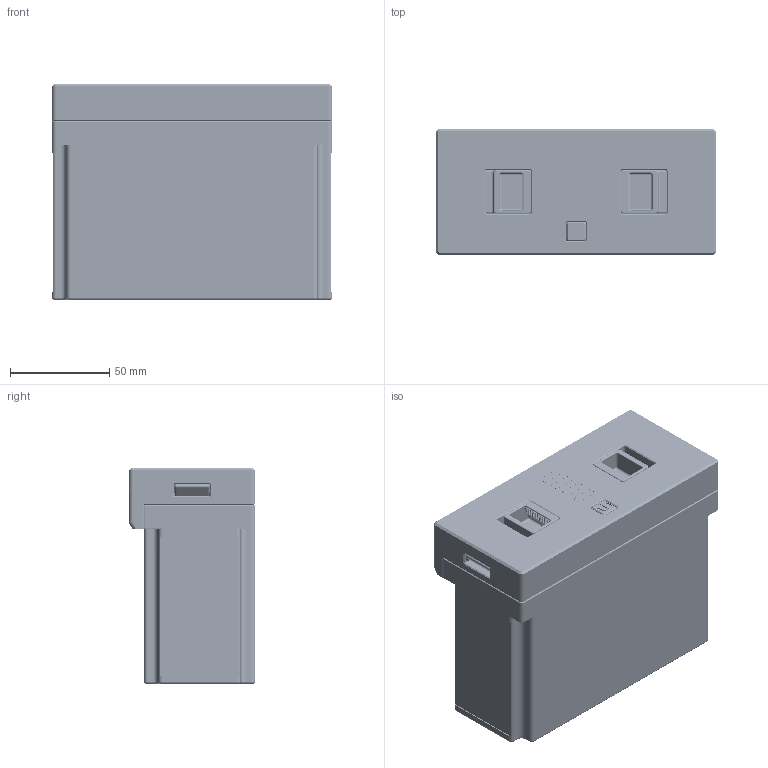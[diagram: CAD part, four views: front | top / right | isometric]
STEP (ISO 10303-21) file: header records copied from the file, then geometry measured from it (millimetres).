
FILE_DESCRIPTION (( 'STEP AP214' ), '1' );
FILE_NAME ('HTPW 02A-48vPower battery.STEP', '2026-04-10T10:41:55', ( 'China' ), ( 'Microsoft' ), 'SwSTEP 2.0', 'SolidWorks 2024', '' );
FILE_SCHEMA (( 'AUTOMOTIVE_DESIGN' ));
Length unit declared in the file: millimetre
Products named in the file (11): 3D_BMS-12S-灯板-V1.0.1_250709_2025-07-09; HT-PB-48PW-02.1A-电池按钮; 3D_BMS-12S-V1.3.0.250606_2025-06-09; 21700电芯包-2x6排列-16p; HT-PB-24PW-电池BMS散热片_37x25x3; HTPW 02A-48vPower battery; HTPW 48PW-02.1A-电池下壳; HTPW 48PW-02.1A-电池卡舌; LGF4118-L7.0雾白; HTPW 48PW-02.1A-电池上盖; HT-PB-48PW-02.1A-滑舌后盖
Assembly tree (15 placements, depth 2):
  HTPW 02A-48vPower battery
    21700电芯包-2x6排列-16p
    HTPW 48PW-02.1A-电池卡舌  x2
    HTPW 48PW-02.1A-电池上盖
    LGF4118-L7.0雾白  x4
    HT-PB-48PW-02.1A-电池按钮
    HTPW 48PW-02.1A-电池下壳
    3D_BMS-12S-V1.3.0.250606_2025-06-09
    HT-PB-24PW-电池BMS散热片_37x25x3
    HT-PB-48PW-02.1A-滑舌后盖  x2
    3D_BMS-12S-灯板-V1.0.1_250709_2025-07-09
Bounding box: 141 x 63.5 x 108.4 mm (x, y, z)
Volume: 626164.6 mm3; surface area: 206333.2 mm2
Topology: 281 solids, 281 shells, 21130 faces, 51825 edges, 31345 vertices
Faces by surface type: plane 9614, cylinder 5438, bspline 2723, torus 2034, sphere 921, cone 400
Entity records: 651534 total; most frequent: CARTESIAN_POINT 177245, ORIENTED_EDGE 100226, DIRECTION 94182, EDGE_CURVE 50113, AXIS2_PLACEMENT_3D 31777, LINE 30628, VECTOR 30628, VERTEX_POINT 30541
